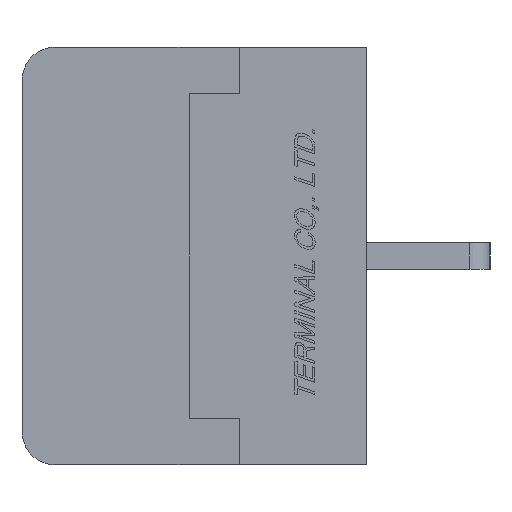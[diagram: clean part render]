
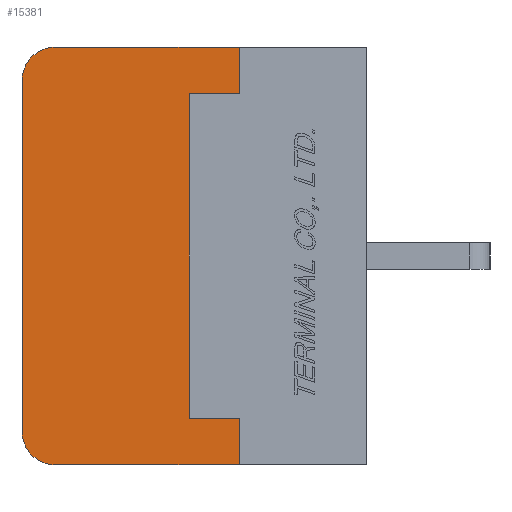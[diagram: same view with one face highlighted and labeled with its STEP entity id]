
A CAD part, left-side view. The second image highlights one B-rep face of the part: STEP entity #15381.
In plain terms, the highlighted planar face has unit normal (-1, 0, 0).
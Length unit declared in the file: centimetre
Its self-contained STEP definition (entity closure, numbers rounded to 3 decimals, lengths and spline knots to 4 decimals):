
#849=CIRCLE('',#25976,0.1);
#851=CIRCLE('',#25979,0.1);
#2054=VERTEX_POINT('',#23601);
#2055=VERTEX_POINT('',#23603);
#2057=VERTEX_POINT('',#23609);
#2059=VERTEX_POINT('',#23615);
#2060=VERTEX_POINT('',#23622);
#2061=VERTEX_POINT('',#23623);
#2062=VERTEX_POINT('',#23626);
#2063=VERTEX_POINT('',#23628);
#2064=VERTEX_POINT('',#23630);
#2065=VERTEX_POINT('',#23632);
#3696=VECTOR('',#18690,1.);
#3702=VECTOR('',#18710,1.);
#3703=VECTOR('',#18711,1.);
#3704=VECTOR('',#18712,1.);
#3705=VECTOR('',#18713,1.);
#3706=VECTOR('',#18714,1.);
#3707=VECTOR('',#18715,1.);
#3708=VECTOR('',#18716,1.);
#5406=LINE('',#23602,#3696);
#5412=LINE('',#23621,#3702);
#5413=LINE('',#23624,#3703);
#5414=LINE('',#23625,#3704);
#5415=LINE('',#23627,#3705);
#5416=LINE('',#23629,#3706);
#5417=LINE('',#23631,#3707);
#5418=LINE('',#23633,#3708);
#7630=EDGE_CURVE('',#2054,#2055,#5406,.T.);
#7634=EDGE_CURVE('',#2057,#2054,#849,.T.);
#7636=EDGE_CURVE('',#2055,#2059,#851,.T.);
#7640=EDGE_CURVE('',#2060,#2061,#5412,.T.);
#7641=EDGE_CURVE('',#2059,#2060,#5413,.T.);
#7642=EDGE_CURVE('',#2062,#2057,#5414,.T.);
#7643=EDGE_CURVE('',#2063,#2062,#5415,.T.);
#7644=EDGE_CURVE('',#2064,#2063,#5416,.T.);
#7645=EDGE_CURVE('',#2065,#2064,#5417,.T.);
#7646=EDGE_CURVE('',#2061,#2065,#5418,.T.);
#11720=ORIENTED_EDGE('',*,*,#7640,.F.);
#11721=ORIENTED_EDGE('',*,*,#7641,.F.);
#11722=ORIENTED_EDGE('',*,*,#7636,.F.);
#11723=ORIENTED_EDGE('',*,*,#7630,.F.);
#11724=ORIENTED_EDGE('',*,*,#7634,.F.);
#11725=ORIENTED_EDGE('',*,*,#7642,.F.);
#11726=ORIENTED_EDGE('',*,*,#7643,.F.);
#11727=ORIENTED_EDGE('',*,*,#7644,.F.);
#11728=ORIENTED_EDGE('',*,*,#7645,.F.);
#11729=ORIENTED_EDGE('',*,*,#7646,.F.);
#13544=EDGE_LOOP('',(#11720,#11721,#11722,#11723,#11724,#11725,#11726,#11727,
#11728,#11729));
#14490=FACE_BOUND('',#13544,.T.);
#15381=ADVANCED_FACE('',(#14490),#16049,.F.);
#16049=PLANE('',#25981);
#18690=DIRECTION('',(0.,0.,1.));
#18697=DIRECTION('',(1.,0.,0.));
#18698=DIRECTION('',(0.,0.,-0.1));
#18703=DIRECTION('',(1.,0.,0.));
#18704=DIRECTION('',(0.,0.,-0.1));
#18709=DIRECTION('',(1.,0.,0.));
#18710=DIRECTION('',(0.,0.,-1.));
#18711=DIRECTION('',(0.,-1.,0.));
#18712=DIRECTION('',(0.,1.,0.));
#18713=DIRECTION('',(0.,0.,-1.));
#18714=DIRECTION('',(0.,-1.,0.));
#18715=DIRECTION('',(0.,0.,-1.));
#18716=DIRECTION('',(0.,1.,0.));
#23601=CARTESIAN_POINT('',(-0.762,1.03,-0.525));
#23602=CARTESIAN_POINT('',(-0.762,1.03,-0.525));
#23603=CARTESIAN_POINT('',(-0.762,1.03,0.525));
#23609=CARTESIAN_POINT('',(-0.762,0.93,-0.625));
#23610=CARTESIAN_POINT('',(-0.762,0.93,-0.525));
#23614=CARTESIAN_POINT('',(-0.762,0.93,0.525));
#23615=CARTESIAN_POINT('',(-0.762,0.93,0.625));
#23620=CARTESIAN_POINT('',(-0.762,0.5047,0.));
#23621=CARTESIAN_POINT('',(-0.762,0.38,0.625));
#23622=CARTESIAN_POINT('',(-0.762,0.38,0.625));
#23623=CARTESIAN_POINT('',(-0.762,0.38,0.485));
#23624=CARTESIAN_POINT('',(-0.762,0.93,0.625));
#23625=CARTESIAN_POINT('',(-0.762,0.,-0.625));
#23626=CARTESIAN_POINT('',(-0.762,0.38,-0.625));
#23627=CARTESIAN_POINT('',(-0.762,0.38,-0.485));
#23628=CARTESIAN_POINT('',(-0.762,0.38,-0.485));
#23629=CARTESIAN_POINT('',(-0.762,0.53,-0.485));
#23630=CARTESIAN_POINT('',(-0.762,0.53,-0.485));
#23631=CARTESIAN_POINT('',(-0.762,0.53,0.485));
#23632=CARTESIAN_POINT('',(-0.762,0.53,0.485));
#23633=CARTESIAN_POINT('',(-0.762,0.38,0.485));
#25976=AXIS2_PLACEMENT_3D('',#23610,#18697,#18698);
#25979=AXIS2_PLACEMENT_3D('',#23614,#18703,#18704);
#25981=AXIS2_PLACEMENT_3D('',#23620,#18709,$);
